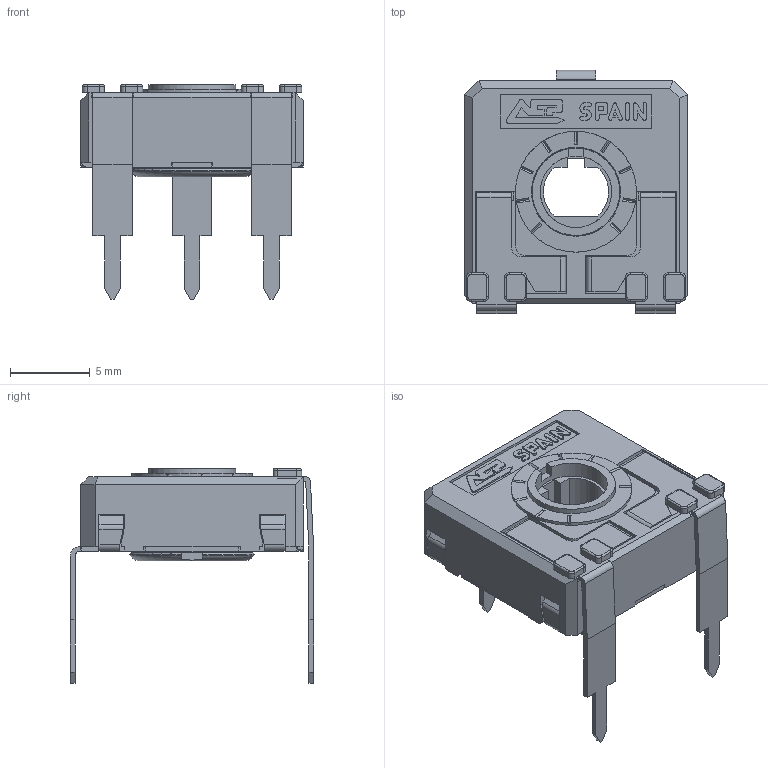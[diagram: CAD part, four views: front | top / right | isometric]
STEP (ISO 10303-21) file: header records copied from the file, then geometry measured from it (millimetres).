
FILE_DESCRIPTION(/* description */ (''),/* implementation_level */ '2;1');
FILE_NAME(/* name */ '\\SERVERACP\intercambio\Ignacio Santa Cecilia\Nueva WEB 2025\CA14 - CE14\CA14TVJ15.stp',/* time_stamp */ '2025-06-13T11:24:36+02:00',/* author */ ('CEM'),/* organization */ (''),/* preprocessor_version */ 'ST-DEVELOPER v17',/* originating_system */ 'Autodesk Inventor 2018',/* authorisation */ '');
FILE_SCHEMA (('AUTOMOTIVE_DESIGN { 1 0 10303 214 3 1 1 }'));
Length unit declared in the file: millimetre
Products named in the file (1): CARCASA CA14 PGA
Bounding box: 14 x 15.3 x 13.5 mm (x, y, z)
Volume: 538.9 mm3; surface area: 1532.2 mm2
Topology: 1 solids, 1 shells, 680 faces, 1923 edges, 1239 vertices
Faces by surface type: plane 504, cylinder 139, torus 23, bspline 8, cone 6
Full cylindrical faces by diameter (mm): 4.5 x1, 5.5 x1, 5.6 x1, 5.752 x1, 6.8 x1, 7.6 x1
Entity records: 22231 total; most frequent: CARTESIAN_POINT 4140, ORIENTED_EDGE 3846, DIRECTION 3587, EDGE_CURVE 1923, LINE 1515, VECTOR 1515, VERTEX_POINT 1239, AXIS2_PLACEMENT_3D 1036
